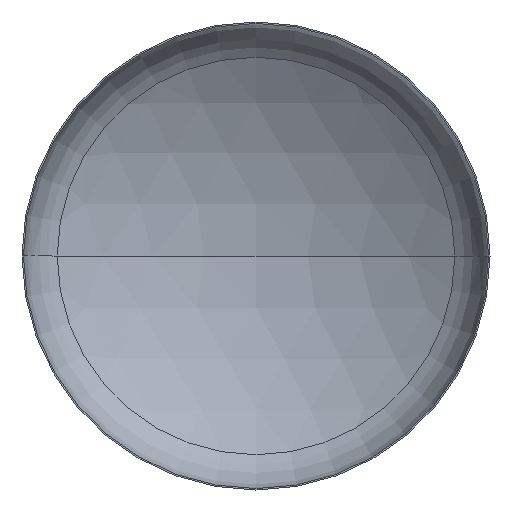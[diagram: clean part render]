
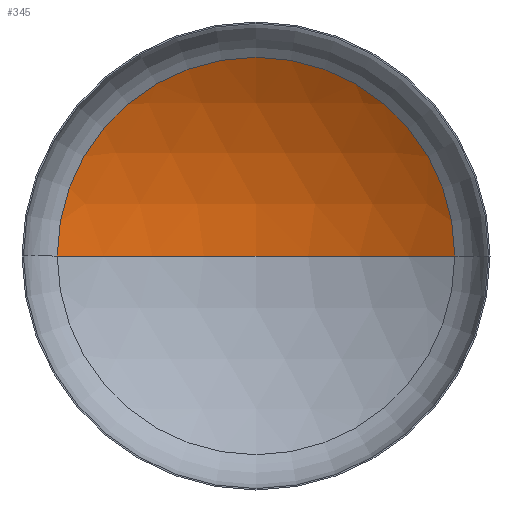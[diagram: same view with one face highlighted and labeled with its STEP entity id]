
A CAD part, front view. The second image highlights one B-rep face of the part: STEP entity #345.
In plain terms, the highlighted spherical face has radius 6000 mm.
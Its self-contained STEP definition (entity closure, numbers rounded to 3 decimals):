
#2 = DIRECTION ( 'NONE',  ( 0., -1., 0. ) ) ;
#6 = CARTESIAN_POINT ( 'NONE',  ( 0., 1048.818, 0. ) ) ;
#17 = AXIS2_PLACEMENT_3D ( 'NONE', #265, #398, #19 ) ;
#19 = DIRECTION ( 'NONE',  ( -1., 0., 0. ) ) ;
#20 = CIRCLE ( 'NONE', #90, 6000. ) ;
#24 = VERTEX_POINT ( 'NONE', #236 ) ;
#36 = ORIENTED_EDGE ( 'NONE', *, *, #162, .T. ) ;
#45 = ORIENTED_EDGE ( 'NONE', *, *, #163, .T. ) ;
#84 = AXIS2_PLACEMENT_3D ( 'NONE', #190, #196, #206 ) ;
#90 = AXIS2_PLACEMENT_3D ( 'NONE', #169, #189, #350 ) ;
#95 = EDGE_LOOP ( 'NONE', ( #214, #45, #36 ) ) ;
#96 = AXIS2_PLACEMENT_3D ( 'NONE', #6, #2, #326 ) ;
#102 = VERTEX_POINT ( 'NONE', #213 ) ;
#115 = VERTEX_POINT ( 'NONE', #223 ) ;
#145 = FACE_OUTER_BOUND ( 'NONE', #95, .T. ) ;
#162 = EDGE_CURVE ( 'NONE', #102, #24, #308, .T. ) ;
#163 = EDGE_CURVE ( 'NONE', #115, #102, #20, .T. ) ;
#164 = EDGE_CURVE ( 'NONE', #115, #24, #301, .T. ) ;
#169 = CARTESIAN_POINT ( 'NONE',  ( 0., -4035.952, 0. ) ) ;
#189 = DIRECTION ( 'NONE',  ( 0., 0., -1. ) ) ;
#190 = CARTESIAN_POINT ( 'NONE',  ( 0., -4035.952, 0. ) ) ;
#196 = DIRECTION ( 'NONE',  ( 0., 0., 1. ) ) ;
#206 = DIRECTION ( 'NONE',  ( 1., 0., 0. ) ) ;
#213 = CARTESIAN_POINT ( 'NONE',  ( 3185.139, 1048.818, 0. ) ) ;
#214 = ORIENTED_EDGE ( 'NONE', *, *, #164, .F. ) ;
#223 = CARTESIAN_POINT ( 'NONE',  ( 0., 1964.048, 0. ) ) ;
#236 = CARTESIAN_POINT ( 'NONE',  ( -3185.139, 1048.818, 0. ) ) ;
#265 = CARTESIAN_POINT ( 'NONE',  ( 0., -4035.952, 0. ) ) ;
#301 = CIRCLE ( 'NONE', #84, 6000. ) ;
#308 = CIRCLE ( 'NONE', #96, 3185.139 ) ;
#326 = DIRECTION ( 'NONE',  ( 1., 0., 0. ) ) ;
#334 = SPHERICAL_SURFACE ( 'NONE', #17, 6000. ) ;
#345 = ADVANCED_FACE ( 'NONE', ( #145 ), #334, .F. ) ;
#350 = DIRECTION ( 'NONE',  ( -1., 0., 0. ) ) ;
#398 = DIRECTION ( 'NONE',  ( 0., 0., -1. ) ) ;
